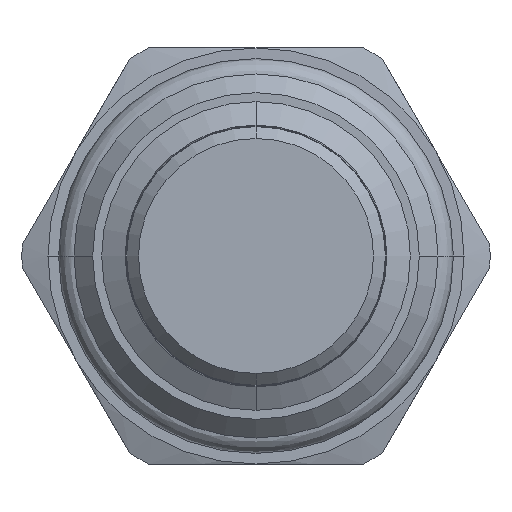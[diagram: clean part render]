
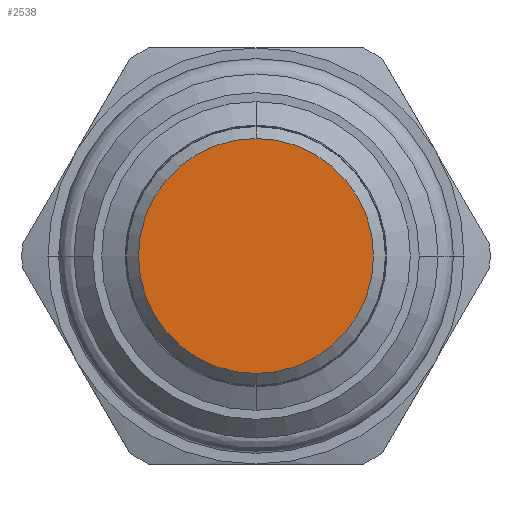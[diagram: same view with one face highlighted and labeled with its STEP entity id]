
A CAD part, front view. The second image highlights one B-rep face of the part: STEP entity #2538.
In plain terms, the highlighted planar face has unit normal (0, -1, 0).
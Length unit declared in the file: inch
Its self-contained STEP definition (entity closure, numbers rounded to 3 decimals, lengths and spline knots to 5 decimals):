
#566=CARTESIAN_POINT('',(0.,-1.253,0.));
#567=DIRECTION('',(0.,1.,0.));
#568=DIRECTION('',(0.,0.,1.));
#569=AXIS2_PLACEMENT_3D('',#566,#567,#568);
#580=CARTESIAN_POINT('',(0.,-1.253,0.));
#581=DIRECTION('',(0.,1.,0.));
#582=DIRECTION('',(0.,0.,-1.));
#583=AXIS2_PLACEMENT_3D('',#580,#581,#582);
#1405=CARTESIAN_POINT('',(0.,-1.253,-0.2825));
#1406=CARTESIAN_POINT('',(0.,-1.253,0.2825));
#1407=VERTEX_POINT('',#1405);
#1408=VERTEX_POINT('',#1406);
#2529=CARTESIAN_POINT('',(0.,-1.253,0.));
#2530=DIRECTION('',(0.,-1.,0.));
#2531=DIRECTION('',(0.,0.,-1.));
#2532=AXIS2_PLACEMENT_3D('',#2529,#2530,#2531);
#2533=PLANE('',#2532);
#2534=ORIENTED_EDGE('',*,*,#2509,.T.);
#2535=ORIENTED_EDGE('',*,*,#2523,.T.);
#2536=EDGE_LOOP('',(#2534,#2535));
#2537=FACE_OUTER_BOUND('',#2536,.F.);
#2538=ADVANCED_FACE('',(#2537),#2533,.T.);
#570=CIRCLE('',#569,0.2825);
#584=CIRCLE('',#583,0.2825);
#2509=EDGE_CURVE('',#1408,#1407,#570,.T.);
#2523=EDGE_CURVE('',#1407,#1408,#584,.T.);
